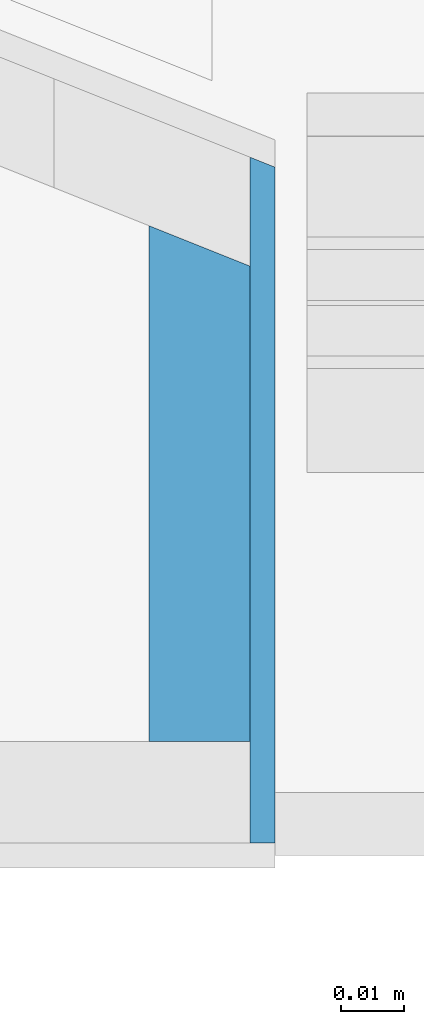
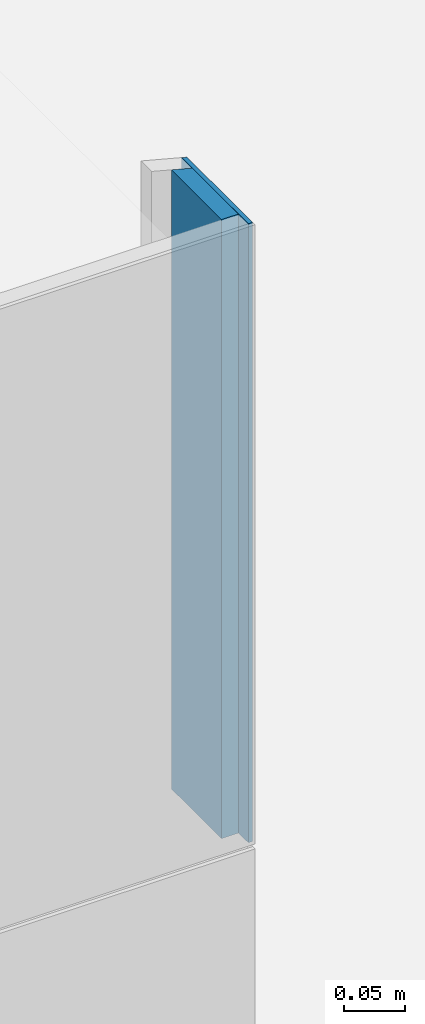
# One storey, part 15 of 57: 2 building element parts, 1 element without a shape of its own.
"""IFC2X3 building model written with IfcOpenShell, lengths in millimetres."""

from ifc_helpers import new_model, entity, si_unit, converted_unit, direction, frame, origin, place, context, subcontext, project, spatial, polyline, outline, extrude, material, type_object, element, aggregate, save


model = new_model("IFC2X3")

# Units and contexts
model_context = context("Model", 3, precision=0.01, world=origin(), true_north=direction((6.123233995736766e-17, 1.0)))
plan_context = context("Plan", 3, precision=0.01, world=origin(), true_north=direction((6.123233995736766e-17, 1.0)))
body_context = subcontext(model_context, "Body", "Model", "MODEL_VIEW")
ifc_project = project(units=[si_unit("LENGTHUNIT", "METRE", prefix="MILLI"), converted_unit("PLANEANGLEUNIT", "DEGREE", entity("IfcPlaneAngleMeasure", 0.017453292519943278), si_unit("PLANEANGLEUNIT", "RADIAN"), dimensions=[0, 0, 0, 0, 0, 0, 0]), si_unit("AREAUNIT", "SQUARE_METRE")], contexts=[model_context, plan_context])

# Site, building, storey
site_placement = place(None, origin())
site = spatial("IfcSite", under=ifc_project, at=site_placement, Name="Default", CompositionType="ELEMENT")
building_placement = place(site_placement, origin())
building = spatial("IfcBuilding", under=site, at=building_placement, CompositionType="ELEMENT")
storey_placement = place(building_placement, frame((0.0, 0.0, 12811.000000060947)))
storey = spatial("IfcBuildingStorey", under=building, at=storey_placement, Name="5K", CompositionType="ELEMENT", Elevation=12811.000000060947)

# Wall, building element parts
wall_type = type_object("IfcWallType", Name="Basic Wall:VS-komposiit", PredefinedType="STANDARD")
wall_placement = place(storey_placement, frame((13265.061891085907, 469.60283704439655, -20.0), z_axis=(0.0, 0.0, 1.0), x_axis=(0.0, -1.0, 0.0)))
wall = element("IfcWall", 1, at=wall_placement, inside=storey, type_object=wall_type, Name="Basic Wall:VS-komposiit", ObjectType="Basic Wall:VS-komposiit")
ifc_material_1 = material(Name="_K. Välisviimistlus. Alumiinium-komposiitplaat")
building_element_part_1_placement = place(wall_placement, origin())
building_element_part_1 = element("IfcBuildingElementPart", 2, at=building_element_part_1_placement, material=ifc_material_1, Name="Part", context=body_context, shape_type="SweptSolid", body=[
    extrude(outline(polyline([(-54.615761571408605, -2.0), (53.8156549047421, -2.0), (53.8156549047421, 2.0), (-53.0155482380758, 2.0), (-54.615761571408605, -2.0)])), frame((43.783770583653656, 8.0, 2420.0)), (0.0, 0.0, 1.0), 614.9999999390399),
])
ifc_material_2 = material(Name="_K. Õhk. Roov. Fassaadikatte alusroov. Horisontaalne. 25 mm")
building_element_part_2_placement = place(wall_placement, origin())
building_element_part_2 = element("IfcBuildingElementPart", 3, at=building_element_part_2_placement, material=ifc_material_2, Name="Part", context=body_context, shape_type="SweptSolid", body=[
    extrude(outline(polyline([(-42.39992607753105, -8.0), (39.199499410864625, -8.0), (39.199499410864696, 8.0), (-35.99907274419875, 8.0), (-42.39992607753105, -8.0)])), frame((42.39992607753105, -2.0, 2420.0)), (0.0, 0.0, 1.0), 614.9999999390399),
])
aggregate(wall, [building_element_part_1, building_element_part_2])

save(model, "model.ifc")
